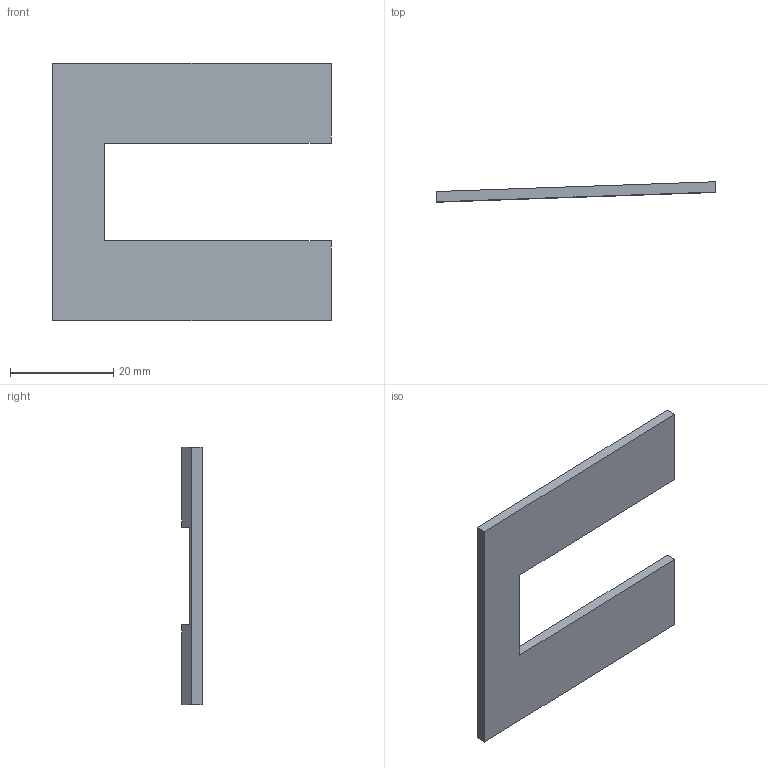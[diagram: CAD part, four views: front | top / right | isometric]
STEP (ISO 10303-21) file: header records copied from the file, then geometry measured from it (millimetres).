
FILE_DESCRIPTION(('Open CASCADE Model'),'2;1');
FILE_NAME('Open CASCADE Shape Model','2026-10-16T00:29:52',('Author'),( 'Open CASCADE'),'Open CASCADE STEP processor 7.9','Open CASCADE 7.9' ,'Unknown');
FILE_SCHEMA(('AUTOMOTIVE_DESIGN { 1 0 10303 214 1 1 1 1 }'));
Length unit declared in the file: millimetre
Products named in the file (1): Open CASCADE STEP translator 7.9 11
Bounding box: 54 x 3.9 x 50 mm (x, y, z)
Volume: 3728 mm3; surface area: 4322.3 mm2
Topology: 1 solids, 1 shells, 10 faces, 24 edges, 16 vertices
Faces by surface type: plane 10
Entity records: 594 total; most frequent: CARTESIAN_POINT 115, DIRECTION 78, LINE 56, VECTOR 56, ORIENTED_EDGE 48, PCURVE 48, DEFINITIONAL_REPRESENTATION 48, EDGE_CURVE 24
